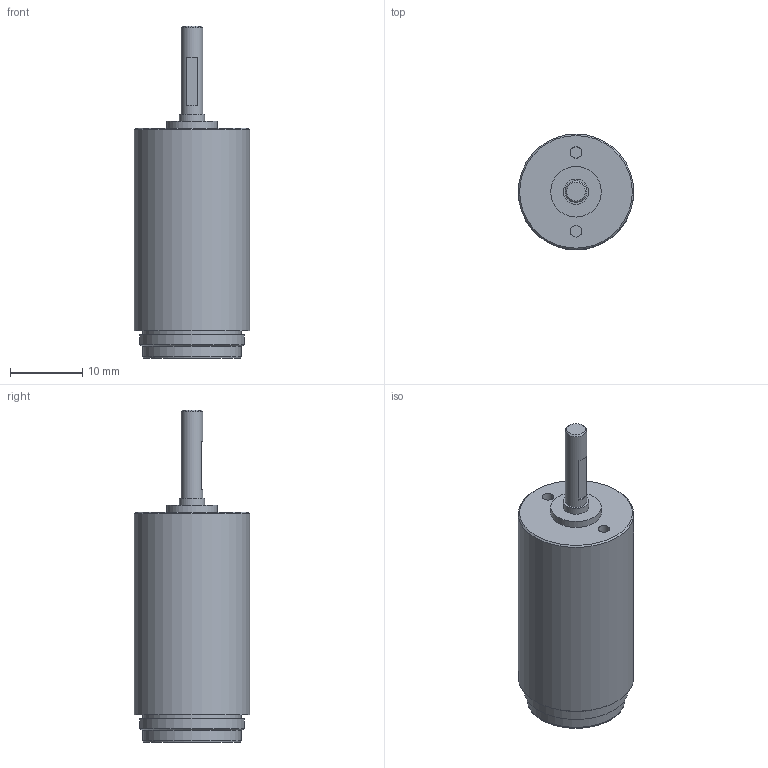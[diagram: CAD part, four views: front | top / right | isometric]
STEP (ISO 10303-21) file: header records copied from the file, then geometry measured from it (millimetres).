
FILE_DESCRIPTION(/* description */ (''),/* implementation_level */ '2;1');
FILE_NAME(/* name */ '16-7_6.stp',/* time_stamp */ '2016-09-09T15:18:11+02:00',/* author */ ('DR. FRITZ FAULHABER GmbH & Co. KG'),/* organization */ ('DR. FRITZ FAULHABER GmbH & Co. KG'),/* preprocessor_version */ 'ST-DEVELOPER v16',/* originating_system */ 'SIEMENS PLM Software NX 10.0',/* authorisation */ '');
FILE_SCHEMA (('AUTOMOTIVE_DESIGN { 1 0 10303 214 3 1 1 1 }'));
Length unit declared in the file: millimetre
Products named in the file (1): H00001179_A
Bounding box: 16 x 16 x 46 mm (x, y, z)
Volume: 6251.3 mm3; surface area: 2229.1 mm2
Topology: 1 solids, 1 shells, 27 faces, 57 edges, 47 vertices
Faces by surface type: plane 13, cylinder 10, cone 4
Full cylindrical faces by diameter (mm): 1.6 x2, 3 x1, 3.5 x1, 6 x1, 7 x1, 13.6 x2, 14.5 x1, 16 x1
Entity records: 697 total; most frequent: DIRECTION 129, CARTESIAN_POINT 97, AXIS2_PLACEMENT_3D 60, ORIENTED_EDGE 58, EDGE_LOOP 50, FACE_BOUND 43, CIRCLE 32, EDGE_CURVE 29
